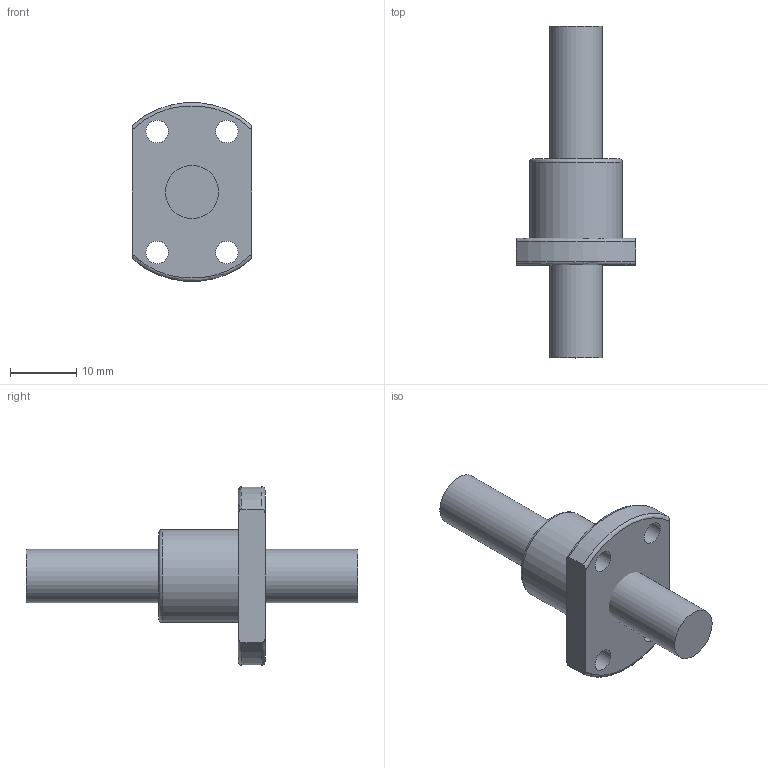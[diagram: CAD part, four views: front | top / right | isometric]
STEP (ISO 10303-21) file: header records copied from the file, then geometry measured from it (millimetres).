
FILE_DESCRIPTION (( 'STEP AP203' ), '1' );
FILE_NAME ('SFK00801.STEP', '2023-08-17T00:19:46', ( '' ), ( '' ), 'SwSTEP 2.0', 'SolidWorks 2022', '' );
FILE_SCHEMA (( 'CONFIG_CONTROL_DESIGN' ));
Length unit declared in the file: millimetre
Products named in the file (1): SFK00801
Bounding box: 18 x 50 x 26.91 mm (x, y, z)
Volume: 5997.1 mm3; surface area: 3169 mm2
Topology: 2 solids, 2 shells, 20 faces, 49 edges, 34 vertices
Faces by surface type: cylinder 8, plane 7, torus 5
Full cylindrical faces by diameter (mm): 3.4 x4, 8 x1, 14 x1
Entity records: 749 total; most frequent: CARTESIAN_POINT 235, DIRECTION 92, ORIENTED_EDGE 74, AXIS2_PLACEMENT_3D 42, EDGE_CURVE 37, EDGE_LOOP 36, VERTEX_POINT 29, FACE_OUTER_BOUND 27
